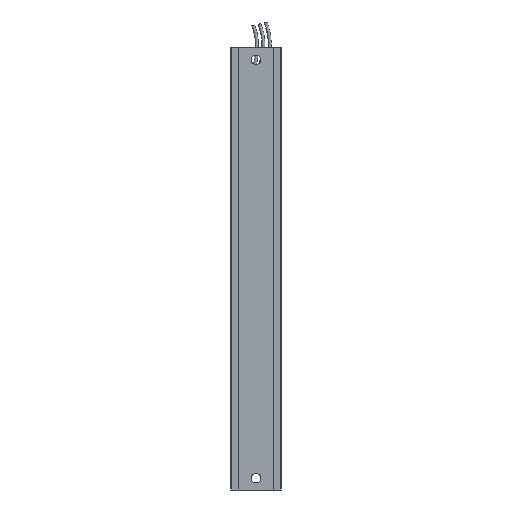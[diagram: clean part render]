
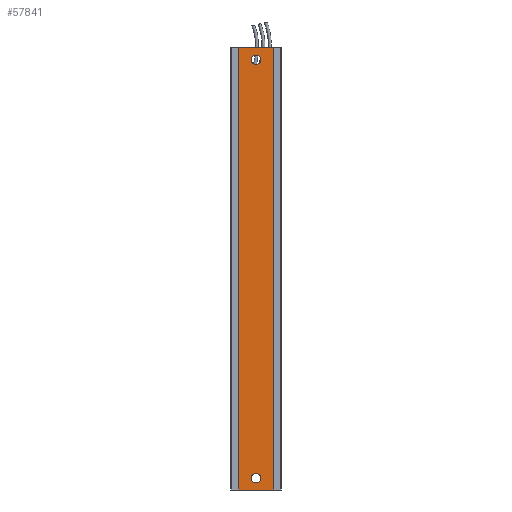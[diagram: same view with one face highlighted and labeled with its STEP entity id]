
A CAD part, front view. The second image highlights one B-rep face of the part: STEP entity #57841.
In plain terms, the highlighted planar face has unit normal (0, -1, 0).
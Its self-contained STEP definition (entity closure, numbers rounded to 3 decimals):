
#794 = ORIENTED_EDGE ( 'NONE', *, *, #50835, .F. ) ;
#1456 = VERTEX_POINT ( 'NONE', #30008 ) ;
#2435 = CARTESIAN_POINT ( 'NONE',  ( 0., 0.1, 146. ) ) ;
#5189 = DIRECTION ( 'NONE',  ( 0., 0., -1. ) ) ;
#5776 = CARTESIAN_POINT ( 'NONE',  ( 5.9, 0.1, 150. ) ) ;
#6380 = DIRECTION ( 'NONE',  ( 0., -1., 0. ) ) ;
#6425 = FACE_OUTER_BOUND ( 'NONE', #55489, .T. ) ;
#6541 = CARTESIAN_POINT ( 'NONE',  ( 0., 0.1, 146. ) ) ;
#7400 = VERTEX_POINT ( 'NONE', #11010 ) ;
#7544 = DIRECTION ( 'NONE',  ( 0., 0., -1. ) ) ;
#7885 = CARTESIAN_POINT ( 'NONE',  ( 5.9, 0.1, 0. ) ) ;
#8358 = VERTEX_POINT ( 'NONE', #11962 ) ;
#8425 = CARTESIAN_POINT ( 'NONE',  ( -5.9, 0.1, 150. ) ) ;
#8959 = CIRCLE ( 'NONE', #57794, 1.6 ) ;
#10373 = ORIENTED_EDGE ( 'NONE', *, *, #18675, .T. ) ;
#10638 = VECTOR ( 'NONE', #40046, 1000. ) ;
#10866 = DIRECTION ( 'NONE',  ( 0., 0., 1. ) ) ;
#11010 = CARTESIAN_POINT ( 'NONE',  ( -5.9, 0.1, 0. ) ) ;
#11576 = DIRECTION ( 'NONE',  ( 0., 0., -1. ) ) ;
#11962 = CARTESIAN_POINT ( 'NONE',  ( 1.6, 0.1, 4. ) ) ;
#12427 = AXIS2_PLACEMENT_3D ( 'NONE', #6541, #41655, #11576 ) ;
#15313 = EDGE_CURVE ( 'NONE', #47492, #1456, #21930, .T. ) ;
#16239 = EDGE_LOOP ( 'NONE', ( #44171, #48772 ) ) ;
#18376 = VECTOR ( 'NONE', #60729, 1000. ) ;
#18675 = EDGE_CURVE ( 'NONE', #1456, #47492, #38637, .T. ) ;
#19756 = VERTEX_POINT ( 'NONE', #59455 ) ;
#19778 = FACE_BOUND ( 'NONE', #35468, .T. ) ;
#20322 = EDGE_CURVE ( 'NONE', #7400, #25692, #39776, .T. ) ;
#21087 = EDGE_CURVE ( 'NONE', #8358, #19756, #8959, .T. ) ;
#21930 = CIRCLE ( 'NONE', #12427, 1.6 ) ;
#22715 = VERTEX_POINT ( 'NONE', #8425 ) ;
#24918 = CARTESIAN_POINT ( 'NONE',  ( -6., 0.1, 150. ) ) ;
#25213 = CARTESIAN_POINT ( 'NONE',  ( -6., 0.1, 0. ) ) ;
#25574 = LINE ( 'NONE', #24918, #10638 ) ;
#25692 = VERTEX_POINT ( 'NONE', #7885 ) ;
#25727 = AXIS2_PLACEMENT_3D ( 'NONE', #2435, #37631, #7544 ) ;
#26734 = CIRCLE ( 'NONE', #28243, 1.6 ) ;
#28243 = AXIS2_PLACEMENT_3D ( 'NONE', #58856, #28797, #63888 ) ;
#28797 = DIRECTION ( 'NONE',  ( 0., -1., 0. ) ) ;
#28809 = CARTESIAN_POINT ( 'NONE',  ( 5.9, 0.1, 150. ) ) ;
#29640 = ORIENTED_EDGE ( 'NONE', *, *, #20322, .T. ) ;
#30008 = CARTESIAN_POINT ( 'NONE',  ( 1.6, 0.1, 146. ) ) ;
#30272 = VERTEX_POINT ( 'NONE', #28809 ) ;
#31649 = EDGE_CURVE ( 'NONE', #22715, #7400, #45087, .T. ) ;
#33118 = FACE_BOUND ( 'NONE', #16239, .T. ) ;
#35302 = DIRECTION ( 'NONE',  ( 0., -1., 0. ) ) ;
#35468 = EDGE_LOOP ( 'NONE', ( #40119, #10373 ) ) ;
#35724 = CARTESIAN_POINT ( 'NONE',  ( -5.9, 0.1, 0. ) ) ;
#36474 = CARTESIAN_POINT ( 'NONE',  ( 0., 0.1, 4. ) ) ;
#37631 = DIRECTION ( 'NONE',  ( 0., 1., 0. ) ) ;
#37637 = AXIS2_PLACEMENT_3D ( 'NONE', #25213, #35302, #5189 ) ;
#38400 = VECTOR ( 'NONE', #10866, 1000. ) ;
#38637 = CIRCLE ( 'NONE', #25727, 1.6 ) ;
#39776 = LINE ( 'NONE', #45303, #63337 ) ;
#40046 = DIRECTION ( 'NONE',  ( 1., 0., 0. ) ) ;
#40119 = ORIENTED_EDGE ( 'NONE', *, *, #15313, .T. ) ;
#41494 = DIRECTION ( 'NONE',  ( 0., 0., -1. ) ) ;
#41655 = DIRECTION ( 'NONE',  ( 0., 1., 0. ) ) ;
#43957 = ORIENTED_EDGE ( 'NONE', *, *, #31649, .T. ) ;
#44171 = ORIENTED_EDGE ( 'NONE', *, *, #55266, .F. ) ;
#45087 = LINE ( 'NONE', #35724, #18376 ) ;
#45303 = CARTESIAN_POINT ( 'NONE',  ( -6., 0.1, 0. ) ) ;
#47492 = VERTEX_POINT ( 'NONE', #58749 ) ;
#48772 = ORIENTED_EDGE ( 'NONE', *, *, #21087, .F. ) ;
#50037 = EDGE_CURVE ( 'NONE', #25692, #30272, #65082, .T. ) ;
#50835 = EDGE_CURVE ( 'NONE', #22715, #30272, #25574, .T. ) ;
#55258 = PLANE ( 'NONE',  #37637 ) ;
#55266 = EDGE_CURVE ( 'NONE', #19756, #8358, #26734, .T. ) ;
#55489 = EDGE_LOOP ( 'NONE', ( #29640, #60814, #794, #43957 ) ) ;
#57794 = AXIS2_PLACEMENT_3D ( 'NONE', #36474, #6380, #41494 ) ;
#57841 = ADVANCED_FACE ( 'NONE', ( #6425, #33118, #19778 ), #55258, .T. ) ;
#58749 = CARTESIAN_POINT ( 'NONE',  ( -1.6, 0.1, 146. ) ) ;
#58856 = CARTESIAN_POINT ( 'NONE',  ( 0., 0.1, 4. ) ) ;
#59455 = CARTESIAN_POINT ( 'NONE',  ( -1.6, 0.1, 4. ) ) ;
#60470 = DIRECTION ( 'NONE',  ( 1., 0., 0. ) ) ;
#60729 = DIRECTION ( 'NONE',  ( 0., 0., -1. ) ) ;
#60814 = ORIENTED_EDGE ( 'NONE', *, *, #50037, .T. ) ;
#63337 = VECTOR ( 'NONE', #60470, 1000. ) ;
#63888 = DIRECTION ( 'NONE',  ( 0., 0., -1. ) ) ;
#65082 = LINE ( 'NONE', #5776, #38400 ) ;
